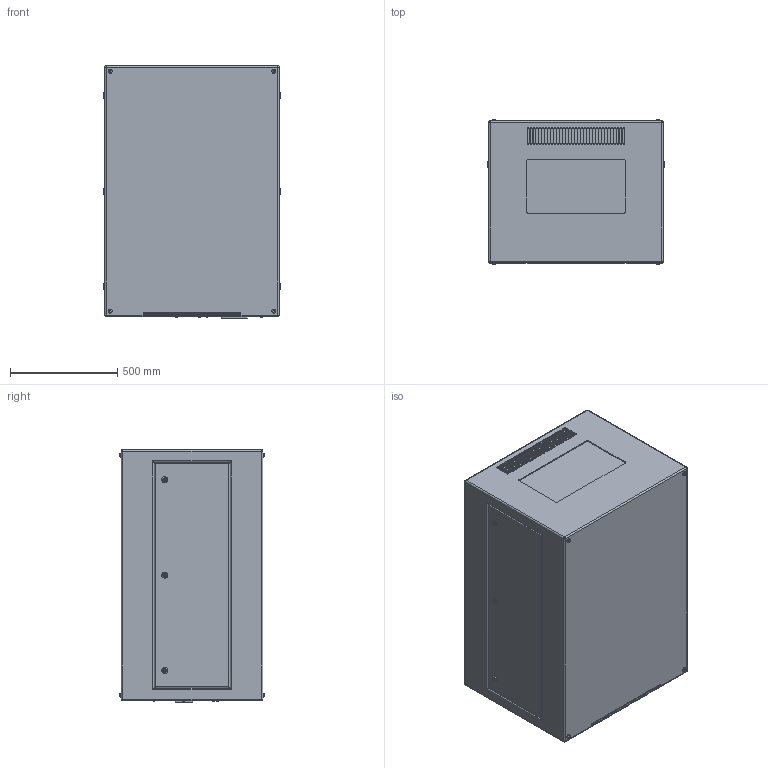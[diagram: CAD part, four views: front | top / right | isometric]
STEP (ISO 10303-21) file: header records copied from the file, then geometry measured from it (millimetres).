
FILE_DESCRIPTION (( 'STEP AP214' ), '1' );
FILE_NAME ('Zen 57.202.L R11.STEP', '2022-09-15T21:14:09', ( '' ), ( '' ), 'SwSTEP 2.0', 'SolidWorks 2020', '' );
FILE_SCHEMA (( 'AUTOMOTIVE_DESIGN' ));
Length unit declared in the file: inch
Products named in the file (1): Zen 57.202.L R11
Bounding box: 825.5 x 675.11 x 1176.02 mm (x, y, z)
Volume: 625719604 mm3; surface area: 4835048.3 mm2
Topology: 1 solids, 5 shells, 1098 faces, 2776 edges, 1706 vertices
Faces by surface type: plane 498, cylinder 478, sphere 74, torus 48
Entity records: 36042 total; most frequent: CARTESIAN_POINT 5939, DIRECTION 5824, ORIENTED_EDGE 5404, EDGE_CURVE 2702, AXIS2_PLACEMENT_3D 2103, VERTEX_POINT 1706, VECTOR 1618, LINE 1618
